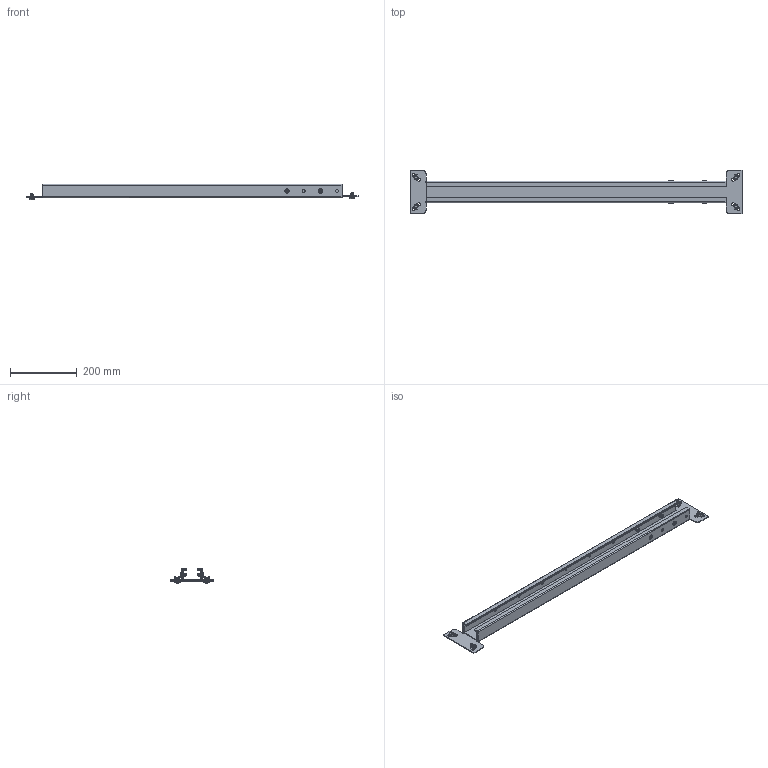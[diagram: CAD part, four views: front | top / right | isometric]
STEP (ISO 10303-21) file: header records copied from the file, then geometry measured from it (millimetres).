
FILE_DESCRIPTION(/* description */ ('Unknown'),/* implementation_level */ '2;1');
FILE_NAME(/* name */ '127.00635_03-900mm',/* time_stamp */ '2021-11-02T12:47:55+01:00',/* author */ ('Unknown'),/* organization */ ('Unknown'),/* preprocessor_version */ 'ST-DEVELOPER v18.1',/* originating_system */ 'Solid Edge',/* authorisation */ 'Unknown');
FILE_SCHEMA (('AUTOMOTIVE_DESIGN {1 0 10303 214 3 1 1}'));
Length unit declared in the file: millimetre
Products named in the file (9): 127.00635; 060339~2; 060340~3; Sechskantmutter M6 DIN 934; Scheibe Ø6,4 DIN 125; Halbrundkopfschraube mit Innensechskant M8x12 ISO 7380-1; Scheibe Ø8,4 DIN 125 ; Nutenstein M8_montiert; Halbrundkopfschraube mit Innensechskant und Bund M6x16 ISO 7380-2
Assembly tree (26 placements, depth 2):
  127.00635
    060339~2
    060340~3
    Sechskantmutter M6 DIN 934  x4
    Scheibe Ø6,4 DIN 125  x4
    Halbrundkopfschraube mit Innensechskant M8x12 ISO 7380-1  x4
    Scheibe Ø8,4 DIN 125   x4
    Nutenstein M8_montiert  x4
    Halbrundkopfschraube mit Innensechskant und Bund M6x16 ISO 7380-2  x4
Bounding box: 996 x 130 x 46.15 mm (x, y, z)
Volume: 709606.9 mm3; surface area: 584786.9 mm2
Topology: 26 solids, 26 shells, 796 faces, 2059 edges, 1327 vertices
Faces by surface type: plane 384, cylinder 268, torus 72, bspline 48, cone 20, sphere 4
Full cylindrical faces by diameter (mm): 6 x8, 6.4 x4, 6.647 x4, 7 x16, 8 x4, 8.5 x12, 12 x4, 13.6 x4, 14 x4, 16.8 x4
Entity records: 10787 total; most frequent: CARTESIAN_POINT 2359, DIRECTION 1406, ORIENTED_EDGE 1386, EDGE_CURVE 693, AXIS2_PLACEMENT_3D 517, VERTEX_POINT 473, EDGE_LOOP 394, FACE_BOUND 394
